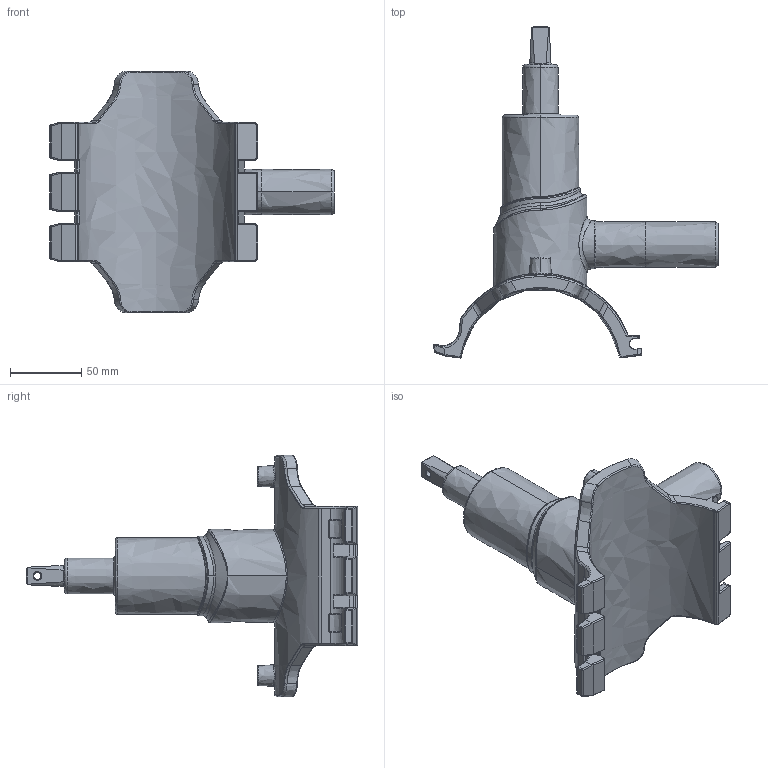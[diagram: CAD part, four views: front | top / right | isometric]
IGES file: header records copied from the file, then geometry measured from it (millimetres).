
Start section:  PTC IGES file: dav2_d110_32_01.igs
Global section: file name: dav2_d110_32_01.igs; native system: Creo Parametric by PTC Inc.; preprocessor: 2019030; author: mikulicp; organization: Unknown; date: 20200409.143924; units: millimetre
Bounding box: 199.95 x 233.26 x 170 mm (x, y, z)
Surface area: 95558.6 mm2 (no closed solid volume)
Topology: 0 solids, 0 shells, 571 faces, 2768 edges, 2762 vertices
Faces by surface type: bspline 571
